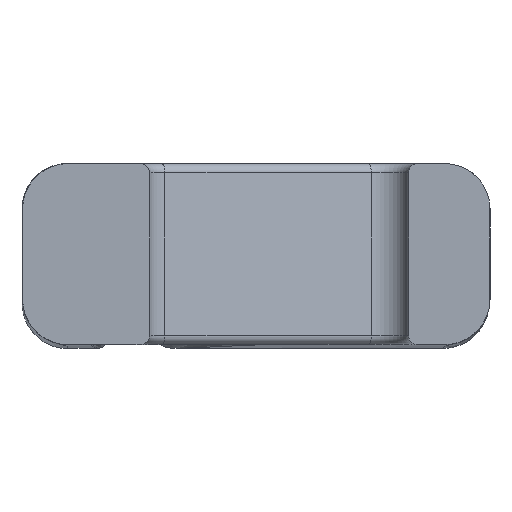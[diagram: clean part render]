
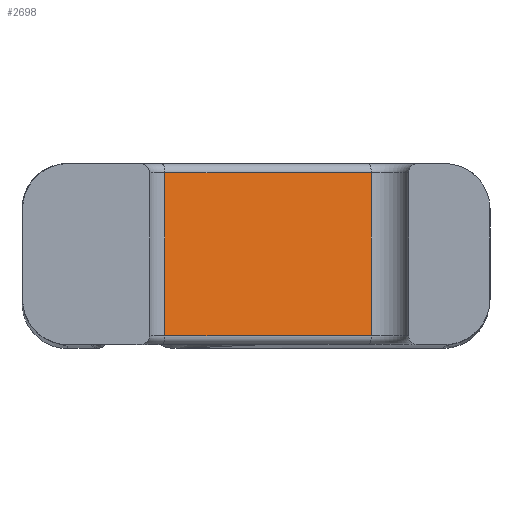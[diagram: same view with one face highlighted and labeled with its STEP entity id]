
A CAD part, left-side view. The second image highlights one B-rep face of the part: STEP entity #2698.
In plain terms, the highlighted planar face has unit normal (-0.93, -0.366, 0).
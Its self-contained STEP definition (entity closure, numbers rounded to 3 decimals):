
#163 = LINE ( 'NONE', #3462, #3332 ) ;
#330 = VECTOR ( 'NONE', #810, 1000. ) ;
#496 = VECTOR ( 'NONE', #1986, 1000. ) ;
#511 = PLANE ( 'NONE',  #3622 ) ;
#810 = DIRECTION ( 'NONE',  ( -0.367, 0.93, 0. ) ) ;
#1009 = CARTESIAN_POINT ( 'NONE',  ( 43.027, 9.166, 9. ) ) ;
#1040 = ORIENTED_EDGE ( 'NONE', *, *, #2927, .T. ) ;
#1420 = DIRECTION ( 'NONE',  ( 0., 0., -1. ) ) ;
#1462 = VECTOR ( 'NONE', #2069, 1000. ) ;
#1504 = DIRECTION ( 'NONE',  ( 0.367, -0.93, 0. ) ) ;
#1511 = CARTESIAN_POINT ( 'NONE',  ( 43.027, 9.166, -27.656 ) ) ;
#1972 = VERTEX_POINT ( 'NONE', #3540 ) ;
#1986 = DIRECTION ( 'NONE',  ( 0., 0., -1. ) ) ;
#2050 = LINE ( 'NONE', #2412, #496 ) ;
#2055 = ORIENTED_EDGE ( 'NONE', *, *, #3234, .T. ) ;
#2060 = CARTESIAN_POINT ( 'NONE',  ( 45.818, 2.08, -9. ) ) ;
#2069 = DIRECTION ( 'NONE',  ( 0., 0., 1. ) ) ;
#2350 = EDGE_CURVE ( 'NONE', #3455, #3773, #4124, .T. ) ;
#2412 = CARTESIAN_POINT ( 'NONE',  ( 45.818, 2.08, -10. ) ) ;
#2614 = CARTESIAN_POINT ( 'NONE',  ( 45.818, 2.08, 9. ) ) ;
#2698 = ADVANCED_FACE ( 'NONE', ( #2799 ), #511, .F. ) ;
#2799 = FACE_OUTER_BOUND ( 'NONE', #3173, .T. ) ;
#2834 = CARTESIAN_POINT ( 'NONE',  ( 54.805, -20.734, 10. ) ) ;
#2927 = EDGE_CURVE ( 'NONE', #3859, #1972, #163, .T. ) ;
#3139 = CARTESIAN_POINT ( 'NONE',  ( 54.805, -20.734, 9. ) ) ;
#3173 = EDGE_LOOP ( 'NONE', ( #3744, #1040, #2055, #3260 ) ) ;
#3234 = EDGE_CURVE ( 'NONE', #1972, #3455, #3514, .T. ) ;
#3260 = ORIENTED_EDGE ( 'NONE', *, *, #2350, .T. ) ;
#3332 = VECTOR ( 'NONE', #1504, 1000. ) ;
#3455 = VERTEX_POINT ( 'NONE', #3139 ) ;
#3462 = CARTESIAN_POINT ( 'NONE',  ( 43.027, 9.166, -9. ) ) ;
#3494 = DIRECTION ( 'NONE',  ( 0.93, 0.367, 0. ) ) ;
#3514 = LINE ( 'NONE', #2834, #1462 ) ;
#3540 = CARTESIAN_POINT ( 'NONE',  ( 54.805, -20.734, -9. ) ) ;
#3622 = AXIS2_PLACEMENT_3D ( 'NONE', #1511, #3494, #1420 ) ;
#3744 = ORIENTED_EDGE ( 'NONE', *, *, #4332, .T. ) ;
#3773 = VERTEX_POINT ( 'NONE', #2614 ) ;
#3859 = VERTEX_POINT ( 'NONE', #2060 ) ;
#4124 = LINE ( 'NONE', #1009, #330 ) ;
#4332 = EDGE_CURVE ( 'NONE', #3773, #3859, #2050, .T. ) ;
